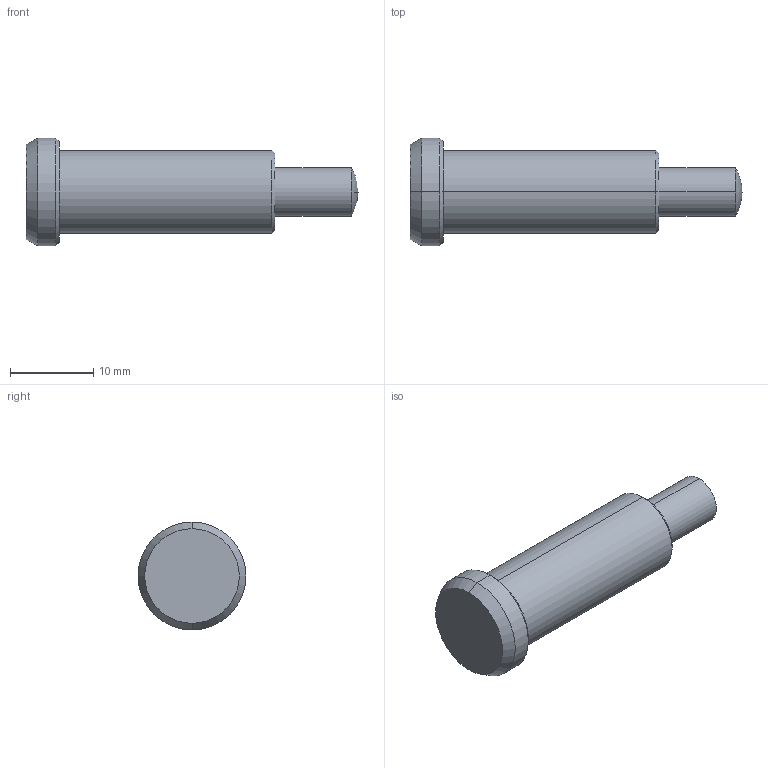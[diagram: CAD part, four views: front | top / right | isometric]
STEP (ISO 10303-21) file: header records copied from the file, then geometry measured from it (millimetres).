
FILE_DESCRIPTION (( 'STEP AP214' ), '1' );
FILE_NAME ('614.6-10-KN.step', '2022-01-17T12:56:18', ( '' ), ( '' ), 'SwSTEP 2.0', 'SolidWorks 2019', '' );
FILE_SCHEMA (( 'AUTOMOTIVE_DESIGN' ));
Length unit declared in the file: millimetre
Products named in the file (3): 614.6-10-KN; WB614.6_Bolzen^WB614.6_10-NI; WB614.6_Führung^WB614.6_10-NI
Assembly tree (2 placements, depth 2):
  614.6-10-KN
    WB614.6_Führung^WB614.6_10-NI
    WB614.6_Bolzen^WB614.6_10-NI
Bounding box: 40 x 13 x 13 mm (x, y, z)
Volume: 2596.7 mm3; surface area: 1824.4 mm2
Topology: 2 solids, 2 shells, 27 faces, 52 edges, 33 vertices
Faces by surface type: cylinder 12, plane 7, cone 6, sphere 2
Entity records: 810 total; most frequent: DIRECTION 150, CARTESIAN_POINT 117, ORIENTED_EDGE 104, AXIS2_PLACEMENT_3D 66, EDGE_CURVE 52, CIRCLE 34, VERTEX_POINT 33, EDGE_LOOP 31
